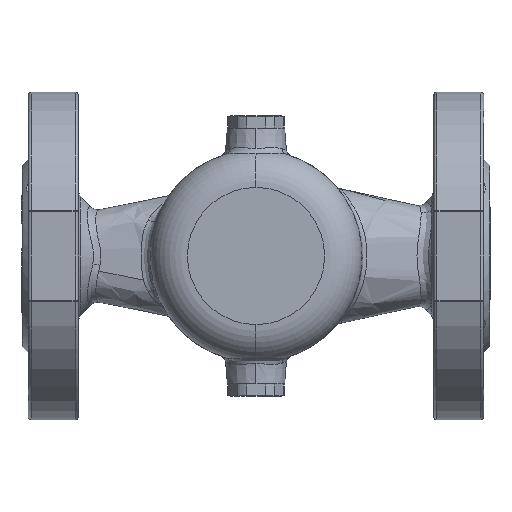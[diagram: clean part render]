
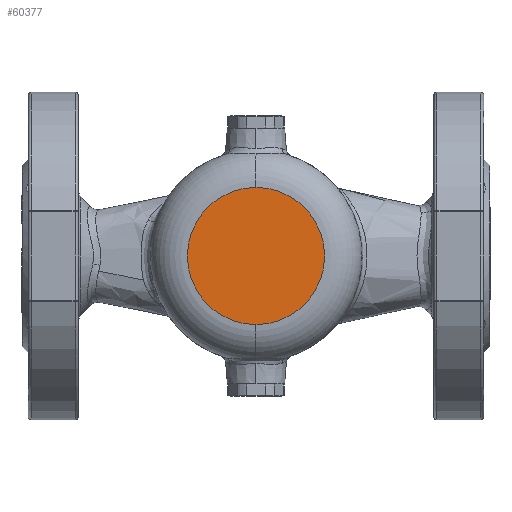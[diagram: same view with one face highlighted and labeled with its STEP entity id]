
A CAD part, front view. The second image highlights one B-rep face of the part: STEP entity #60377.
In plain terms, the highlighted planar face has unit normal (0, -1, 0).
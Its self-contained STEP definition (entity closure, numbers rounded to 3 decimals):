
#4231 = FACE_OUTER_BOUND ( 'NONE', #40877, .T. ) ;
#18200 = ORIENTED_EDGE ( 'NONE', *, *, #49109, .F. ) ;
#18363 = AXIS2_PLACEMENT_3D ( 'NONE', #38244, #49715, #62858 ) ;
#22664 = AXIS2_PLACEMENT_3D ( 'NONE', #62396, #25023, #68147 ) ;
#25023 = DIRECTION ( 'NONE',  ( 0., 1., 0. ) ) ;
#26088 = VERTEX_POINT ( 'NONE', #70242 ) ;
#27732 = CARTESIAN_POINT ( 'NONE',  ( 0., -45., 0. ) ) ;
#30807 = CARTESIAN_POINT ( 'NONE',  ( 0., -45., 22. ) ) ;
#38244 = CARTESIAN_POINT ( 'NONE',  ( -22., -45., 0. ) ) ;
#40877 = EDGE_LOOP ( 'NONE', ( #18200, #69868 ) ) ;
#49109 = EDGE_CURVE ( 'NONE', #81233, #26088, #67689, .T. ) ;
#49715 = DIRECTION ( 'NONE',  ( 0., -1., 0. ) ) ;
#52381 = DIRECTION ( 'NONE',  ( 0., 1., 0. ) ) ;
#59331 = DIRECTION ( 'NONE',  ( 0., 0., 1. ) ) ;
#60377 = ADVANCED_FACE ( 'NONE', ( #4231 ), #79689, .T. ) ;
#62396 = CARTESIAN_POINT ( 'NONE',  ( 0., -45., 0. ) ) ;
#62858 = DIRECTION ( 'NONE',  ( 0., 0., -1. ) ) ;
#66400 = AXIS2_PLACEMENT_3D ( 'NONE', #27732, #52381, #59331 ) ;
#67259 = CIRCLE ( 'NONE', #22664, 22. ) ;
#67689 = CIRCLE ( 'NONE', #66400, 22. ) ;
#68147 = DIRECTION ( 'NONE',  ( 0., 0., 1. ) ) ;
#69562 = EDGE_CURVE ( 'NONE', #26088, #81233, #67259, .T. ) ;
#69868 = ORIENTED_EDGE ( 'NONE', *, *, #69562, .F. ) ;
#70242 = CARTESIAN_POINT ( 'NONE',  ( 0., -45., -22. ) ) ;
#79689 = PLANE ( 'NONE',  #18363 ) ;
#81233 = VERTEX_POINT ( 'NONE', #30807 ) ;
